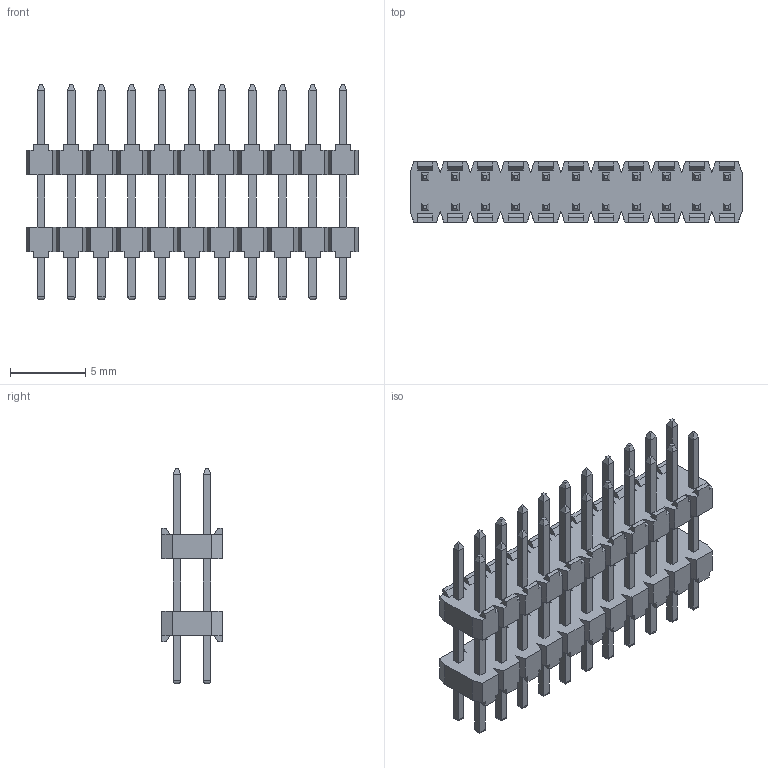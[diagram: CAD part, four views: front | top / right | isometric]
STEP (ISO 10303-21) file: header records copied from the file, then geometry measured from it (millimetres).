
FILE_DESCRIPTION(/* description */ (''),/* implementation_level */ '2;1');
FILE_NAME(/* name */ '951422-8011506-AR',/* time_stamp */ '2007-03-14T08:23:45+01:00',/* author */ (''),/* organization */ (''),/* preprocessor_version */ 'ST-DEVELOPER v9',/* originating_system */ 'UGS - NX 4.0',/* authorisation */ '');
FILE_SCHEMA (('AUTOMOTIVE_DESIGN { 1 0 10303 214 1 1 1 1 }'));
Length unit declared in the file: millimetre
Products named in the file (1): 951422-8011506-AR
Bounding box: 22 x 4 x 14.3 mm (x, y, z)
Volume: 336.4 mm3; surface area: 1069.9 mm2
Topology: 1 solids, 1 shells, 800 faces, 2080 edges, 1328 vertices
Faces by surface type: plane 712, cylinder 88
Entity records: 23912 total; most frequent: CARTESIAN_POINT 4209, ORIENTED_EDGE 4160, DIRECTION 3770, EDGE_CURVE 2080, LINE 1992, VECTOR 1992, VERTEX_POINT 1328, AXIS2_PLACEMENT_3D 889
